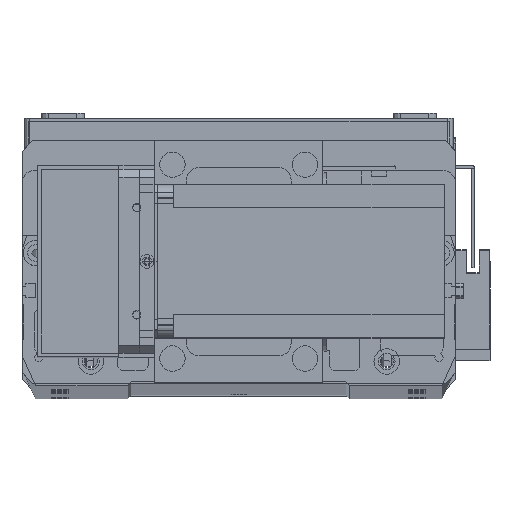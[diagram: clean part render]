
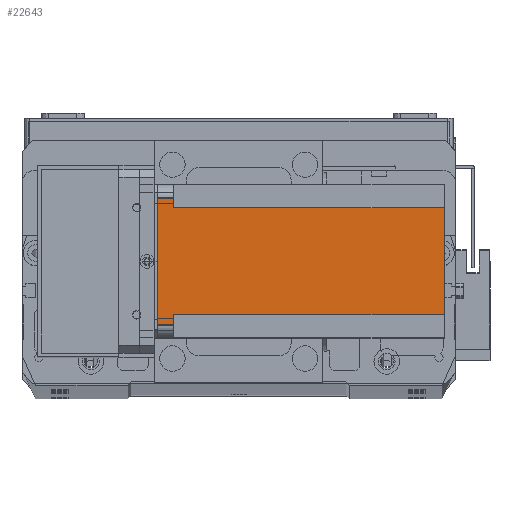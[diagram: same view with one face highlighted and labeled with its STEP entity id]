
A CAD part, top view. The second image highlights one B-rep face of the part: STEP entity #22643.
In plain terms, the highlighted planar face has unit normal (0, 0, 1) as drawn and (-1, 0, 0) by its records, which use the part's own axes.
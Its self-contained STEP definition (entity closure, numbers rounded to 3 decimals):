
#78 = CARTESIAN_POINT ( 'NONE',  ( 0., 55., 0. ) ) ;
#1712 = LINE ( 'NONE', #2611, #22040 ) ;
#2238 = LINE ( 'NONE', #32141, #30514 ) ;
#2298 = CARTESIAN_POINT ( 'NONE',  ( 0., 51., -6.5 ) ) ;
#2611 = CARTESIAN_POINT ( 'NONE',  ( 0., 0., 0. ) ) ;
#3378 = EDGE_LOOP ( 'NONE', ( #24355, #10366, #26314, #32363, #15295, #3763, #25722, #11127 ) ) ;
#3763 = ORIENTED_EDGE ( 'NONE', *, *, #4298, .F. ) ;
#4265 = CARTESIAN_POINT ( 'NONE',  ( 0., 5., 0. ) ) ;
#4298 = EDGE_CURVE ( 'NONE', #31420, #7095, #20589, .T. ) ;
#5405 = DIRECTION ( 'NONE',  ( 0., -1., 0. ) ) ;
#6037 = EDGE_CURVE ( 'NONE', #31420, #30311, #2238, .T. ) ;
#6508 = VECTOR ( 'NONE', #13021, 1000. ) ;
#7012 = EDGE_CURVE ( 'NONE', #8161, #12518, #28900, .T. ) ;
#7095 = VERTEX_POINT ( 'NONE', #2298 ) ;
#7818 = CARTESIAN_POINT ( 'NONE',  ( 0., 51., -112.5 ) ) ;
#8161 = VERTEX_POINT ( 'NONE', #25567 ) ;
#8483 = LINE ( 'NONE', #17412, #13867 ) ;
#8520 = DIRECTION ( 'NONE',  ( -1., 0., 0. ) ) ;
#9822 = VECTOR ( 'NONE', #10776, 1000. ) ;
#10146 = VECTOR ( 'NONE', #24685, 1000. ) ;
#10366 = ORIENTED_EDGE ( 'NONE', *, *, #20132, .T. ) ;
#10700 = VERTEX_POINT ( 'NONE', #4265 ) ;
#10776 = DIRECTION ( 'NONE',  ( 0., 1., 0. ) ) ;
#11127 = ORIENTED_EDGE ( 'NONE', *, *, #21732, .F. ) ;
#11361 = CARTESIAN_POINT ( 'NONE',  ( 0., 5., -112.5 ) ) ;
#12512 = CARTESIAN_POINT ( 'NONE',  ( 0., 0., -6.5 ) ) ;
#12518 = VERTEX_POINT ( 'NONE', #31205 ) ;
#13021 = DIRECTION ( 'NONE',  ( 0., 0., 1. ) ) ;
#13867 = VECTOR ( 'NONE', #14762, 1000. ) ;
#14748 = VECTOR ( 'NONE', #20498, 1000. ) ;
#14762 = DIRECTION ( 'NONE',  ( 0., 0., -1. ) ) ;
#15295 = ORIENTED_EDGE ( 'NONE', *, *, #25128, .F. ) ;
#16299 = VECTOR ( 'NONE', #30768, 1000. ) ;
#17196 = LINE ( 'NONE', #11361, #10146 ) ;
#17412 = CARTESIAN_POINT ( 'NONE',  ( 0., 55., -112.5 ) ) ;
#18183 = CARTESIAN_POINT ( 'NONE',  ( 0., 51., -112.5 ) ) ;
#18273 = CARTESIAN_POINT ( 'NONE',  ( 0., 9., -112.5 ) ) ;
#18929 = CARTESIAN_POINT ( 'NONE',  ( 0., 55., -6.5 ) ) ;
#19040 = PLANE ( 'NONE',  #31789 ) ;
#20041 = CARTESIAN_POINT ( 'NONE',  ( 0., 9., -112.5 ) ) ;
#20132 = EDGE_CURVE ( 'NONE', #8161, #10700, #17196, .T. ) ;
#20498 = DIRECTION ( 'NONE',  ( 0., 1., 0. ) ) ;
#20589 = LINE ( 'NONE', #7818, #6508 ) ;
#20626 = VERTEX_POINT ( 'NONE', #18929 ) ;
#20863 = EDGE_CURVE ( 'NONE', #25742, #20626, #8483, .T. ) ;
#21497 = DIRECTION ( 'NONE',  ( 0., -1., 0. ) ) ;
#21732 = EDGE_CURVE ( 'NONE', #12518, #30311, #23322, .T. ) ;
#22040 = VECTOR ( 'NONE', #5405, 1000. ) ;
#22537 = EDGE_CURVE ( 'NONE', #25742, #10700, #1712, .T. ) ;
#22643 = ADVANCED_FACE ( 'NONE', ( #32906 ), #19040, .T. ) ;
#23081 = LINE ( 'NONE', #29377, #9822 ) ;
#23322 = LINE ( 'NONE', #20041, #16299 ) ;
#24355 = ORIENTED_EDGE ( 'NONE', *, *, #7012, .F. ) ;
#24685 = DIRECTION ( 'NONE',  ( 0., 0., 1. ) ) ;
#25128 = EDGE_CURVE ( 'NONE', #7095, #20626, #23081, .T. ) ;
#25567 = CARTESIAN_POINT ( 'NONE',  ( 0., 5., -6.5 ) ) ;
#25722 = ORIENTED_EDGE ( 'NONE', *, *, #6037, .T. ) ;
#25742 = VERTEX_POINT ( 'NONE', #78 ) ;
#26314 = ORIENTED_EDGE ( 'NONE', *, *, #22537, .F. ) ;
#27084 = DIRECTION ( 'NONE',  ( 0., -1., 0. ) ) ;
#28900 = LINE ( 'NONE', #12512, #14748 ) ;
#29377 = CARTESIAN_POINT ( 'NONE',  ( 0., 60., -6.5 ) ) ;
#29659 = CARTESIAN_POINT ( 'NONE',  ( 0., 0., -112.5 ) ) ;
#30311 = VERTEX_POINT ( 'NONE', #18273 ) ;
#30514 = VECTOR ( 'NONE', #21497, 1000. ) ;
#30768 = DIRECTION ( 'NONE',  ( 0., 0., -1. ) ) ;
#31205 = CARTESIAN_POINT ( 'NONE',  ( 0., 9., -6.5 ) ) ;
#31420 = VERTEX_POINT ( 'NONE', #18183 ) ;
#31789 = AXIS2_PLACEMENT_3D ( 'NONE', #29659, #8520, #27084 ) ;
#32141 = CARTESIAN_POINT ( 'NONE',  ( 0., 0., -112.5 ) ) ;
#32363 = ORIENTED_EDGE ( 'NONE', *, *, #20863, .T. ) ;
#32906 = FACE_OUTER_BOUND ( 'NONE', #3378, .T. ) ;
